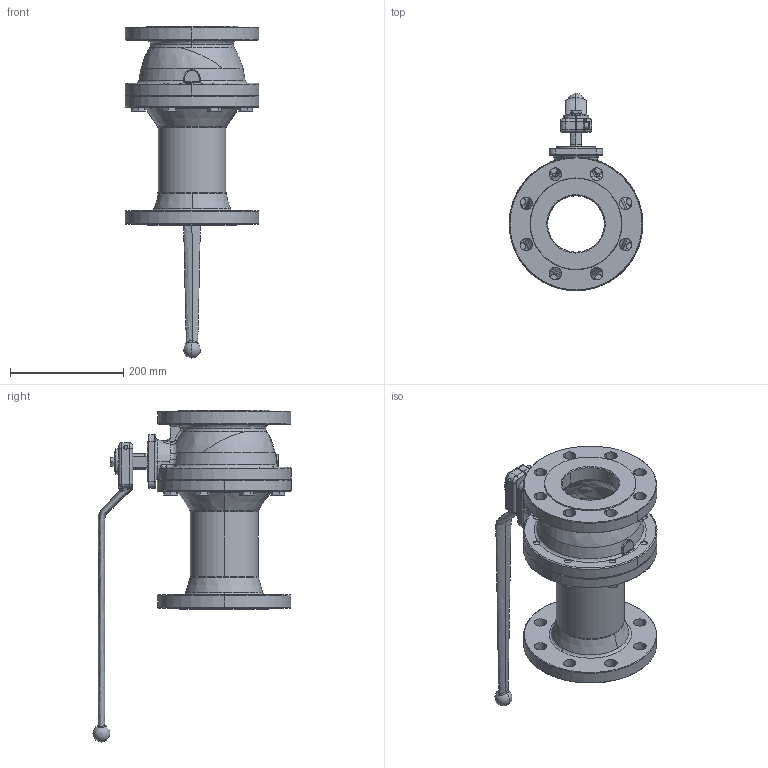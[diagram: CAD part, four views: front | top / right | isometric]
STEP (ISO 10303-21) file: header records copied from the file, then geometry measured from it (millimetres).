
FILE_DESCRIPTION (( 'STEP AP214' ), '1' );
FILE_NAME ('0340100.STEP', '2015-06-15T08:00:55', ( 'pere' ), ( '' ), 'SwSTEP 2.0', 'SolidWorks 2013', '' );
FILE_SCHEMA (( 'AUTOMOTIVE_DESIGN' ));
Length unit declared in the file: millimetre
Products named in the file (9): DIN 912 M8 x 25 --- 25C_DIN 912 M8 x 25 --- 25C; ISO 4017 - M14 x 40-C; ISO 4017 - M10 x 20-N_ISO 4017 - M10 x 20-N; 5180_17; M100CHST; EPI100Q; 0340100L; 0540100C; 0340100
Assembly tree (15 placements, depth 2):
  0340100
    0540100C
    0340100L
    EPI100Q
    M100CHST
    5180_17
    ISO 4017 - M10 x 20-N_ISO 4017 - M10 x 20-N
    ISO 4017 - M14 x 40-C  x8
    DIN 912 M8 x 25 --- 25C_DIN 912 M8 x 25 --- 25C
Bounding box: 236 x 349.7 x 586 mm (x, y, z)
Volume: 4359539.7 mm3; surface area: 680409.3 mm2
Topology: 15 solids, 15 shells, 766 faces, 1874 edges, 1134 vertices
Faces by surface type: cylinder 234, plane 227, cone 157, bspline 102, torus 42, sphere 4
Entity records: 41313 total; most frequent: CARTESIAN_POINT 27841, ORIENTED_EDGE 2838, DIRECTION 2523, EDGE_CURVE 1419, AXIS2_PLACEMENT_3D 1040, VERTEX_POINT 893, EDGE_LOOP 668, FACE_OUTER_BOUND 563
